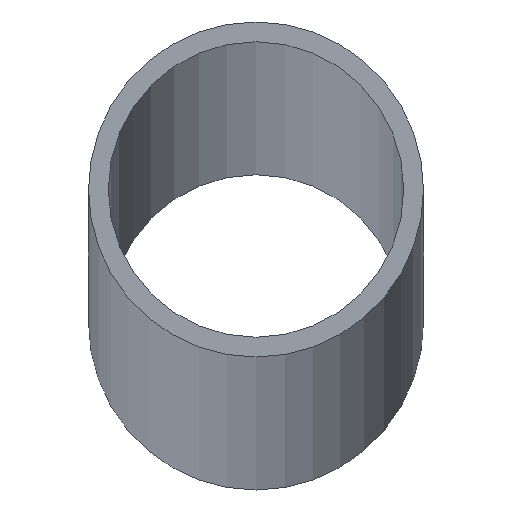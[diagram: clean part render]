
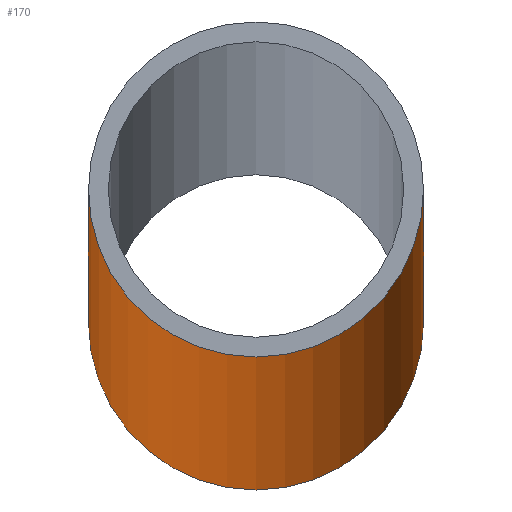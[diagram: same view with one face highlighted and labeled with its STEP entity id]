
A CAD part, top view. The second image highlights one B-rep face of the part: STEP entity #170.
In plain terms, the highlighted cylindrical face has radius 12.75 mm (diameter 25.5 mm), a partial arc.
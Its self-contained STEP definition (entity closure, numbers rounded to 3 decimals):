
#25=CARTESIAN_POINT('',(0.,0.,-2900.));
#26=DIRECTION('',(0.,0.,1.));
#27=DIRECTION('',(-1.,0.,0.));
#28=AXIS2_PLACEMENT_3D('',#25,#26,#27);
#49=DIRECTION('',(0.,0.,1.));
#50=VECTOR('',#49,5800.);
#51=CARTESIAN_POINT('',(12.75,0.,-2900.));
#52=LINE('',#51,#50);
#56=DIRECTION('',(0.,0.,1.));
#57=VECTOR('',#56,5800.);
#58=CARTESIAN_POINT('',(-12.75,0.,-2900.));
#59=LINE('',#58,#57);
#71=CARTESIAN_POINT('',(0.,0.,2900.));
#72=DIRECTION('',(0.,0.,1.));
#73=DIRECTION('',(-1.,0.,0.));
#74=AXIS2_PLACEMENT_3D('',#71,#72,#73);
#109=CARTESIAN_POINT('',(12.75,0.,-2900.));
#110=CARTESIAN_POINT('',(-12.75,0.,-2900.));
#111=VERTEX_POINT('',#109);
#112=VERTEX_POINT('',#110);
#117=CARTESIAN_POINT('',(12.75,0.,2900.));
#118=CARTESIAN_POINT('',(-12.75,0.,2900.));
#119=VERTEX_POINT('',#117);
#120=VERTEX_POINT('',#118);
#158=CARTESIAN_POINT('',(0.,0.,-2900.));
#159=DIRECTION('',(0.,0.,1.));
#160=DIRECTION('',(1.,0.,0.));
#161=AXIS2_PLACEMENT_3D('',#158,#159,#160);
#162=CYLINDRICAL_SURFACE('',#161,12.75);
#163=ORIENTED_EDGE('',*,*,#132,.F.);
#164=ORIENTED_EDGE('',*,*,#153,.T.);
#166=ORIENTED_EDGE('',*,*,#165,.T.);
#167=ORIENTED_EDGE('',*,*,#149,.F.);
#168=EDGE_LOOP('',(#163,#164,#166,#167));
#169=FACE_OUTER_BOUND('',#168,.F.);
#29=CIRCLE('',#28,12.75);
#75=CIRCLE('',#74,12.75);
#132=EDGE_CURVE('',#112,#111,#29,.T.);
#149=EDGE_CURVE('',#111,#119,#52,.T.);
#153=EDGE_CURVE('',#112,#120,#59,.T.);
#165=EDGE_CURVE('',#120,#119,#75,.T.);
#170=ADVANCED_FACE('',(#169),#162,.T.);
